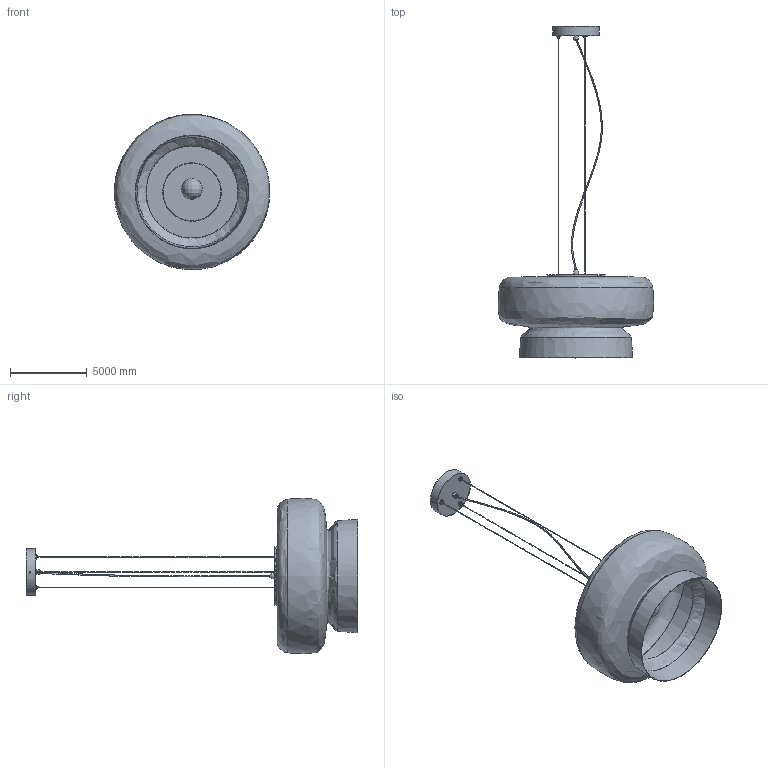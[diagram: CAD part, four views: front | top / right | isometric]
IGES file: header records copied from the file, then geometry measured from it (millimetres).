
Global section: file name: Bohemia Pendant Lamp; native system: AutoCAD 2022 - 简体中文 (Simplified Chinese),62HAuto; preprocessor: desk Translation Framework DWG producer (atf_dwg_producer); organization: unknown; date: 20250520.180106; units: inch
Bounding box: 10115.35 x 21604.5 x 10109.02 mm (x, y, z)
Volume: 11239584189.4 mm3; surface area: 588921657.3 mm2
Topology: 14 solids, 14 shells, 98 faces, 227 edges, 164 vertices
Faces by surface type: bspline 98
